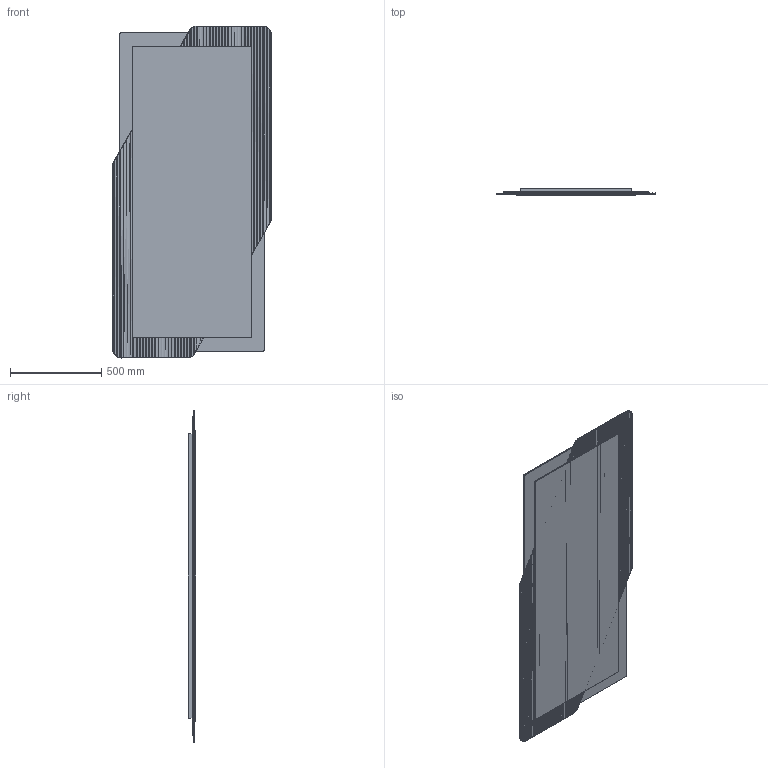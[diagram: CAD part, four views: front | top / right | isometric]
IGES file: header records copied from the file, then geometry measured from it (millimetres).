
Global section: file name: C:\Users\l.marzoli\Desktop\3D_2024\x-web\SHIFT-mirror\87x182\3D_SHIFT-mirror-182.igs; native system: Rhinoceros ( Aug 11 2021 ); preprocessor: Trout Lake IGES 012 Aug 11 2021; date: 240429.163436; units: millimetre
Bounding box: 870.02 x 38.51 x 1819.95 mm (x, y, z)
Surface area: 8106338.3 mm2 (no closed solid volume)
Topology: 0 solids, 0 shells, 745 faces, 6550 edges, 6550 vertices
Faces by surface type: bspline 745
